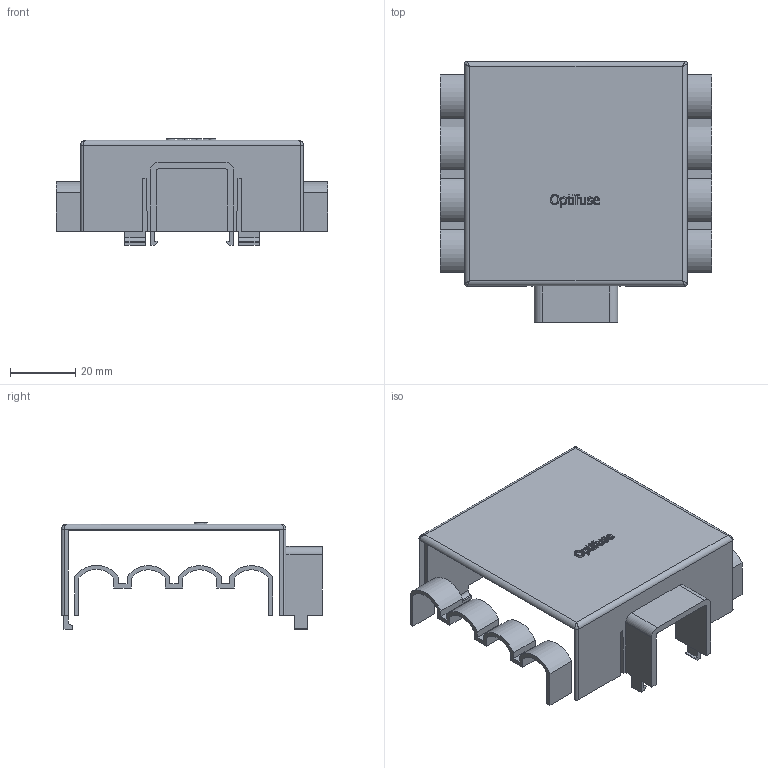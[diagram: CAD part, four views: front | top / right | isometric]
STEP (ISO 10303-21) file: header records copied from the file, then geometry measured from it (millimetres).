
FILE_DESCRIPTION(/* description */ (''),/* implementation_level */ '2;1');
FILE_NAME(/* name */ 'C:\Users\Hani\Desktop\work\BLC-108-G\BLC-106-C.stp',/* time_stamp */ '2021-07-08T14:57:50-07:00',/* author */ ('Hani'),/* organization */ (''),/* preprocessor_version */ 'ST-DEVELOPER v17',/* originating_system */ 'Autodesk Inventor 2019',/* authorisation */ '');
FILE_SCHEMA (('AUTOMOTIVE_DESIGN { 1 0 10303 214 3 1 1 }'));
Length unit declared in the file: inch
Products named in the file (1): BLC-106-C
Bounding box: 83.31 x 80.01 x 32.77 mm (x, y, z)
Volume: 19051 mm3; surface area: 22698.9 mm2
Topology: 3 solids, 3 shells, 286 faces, 792 edges, 520 vertices
Faces by surface type: plane 177, bspline 71, cylinder 38
Entity records: 9721 total; most frequent: CARTESIAN_POINT 2782, ORIENTED_EDGE 1576, DIRECTION 1162, EDGE_CURVE 788, LINE 578, VECTOR 578, VERTEX_POINT 520, EDGE_LOOP 298
